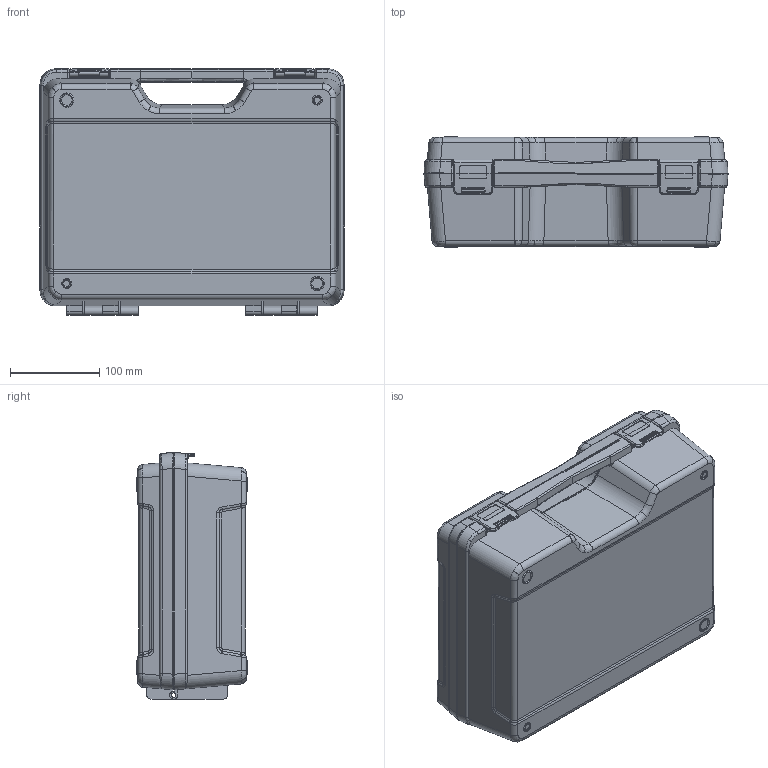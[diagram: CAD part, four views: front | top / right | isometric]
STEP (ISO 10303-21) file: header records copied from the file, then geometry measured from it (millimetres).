
FILE_DESCRIPTION (( 'STEP AP203' ), '1' );
FILE_NAME ('PC-470.STEP', '2020-02-10T14:26:07', ( '' ), ( '' ), 'SwSTEP 2.0', 'SolidWorks 2020', '' );
FILE_SCHEMA (( 'CONFIG_CONTROL_DESIGN' ));
Length unit declared in the file: millimetre
Products named in the file (4): PC-460; PC-470; PC-910; PC-480
Assembly tree (4 placements, depth 2):
  PC-470
    PC-480
    PC-460
    PC-910  x2
Bounding box: 340 x 123.75 x 275.59 mm (x, y, z)
Volume: 923987.9 mm3; surface area: 632936.4 mm2
Topology: 4 solids, 4 shells, 1162 faces, 3060 edges, 1934 vertices
Faces by surface type: plane 424, cylinder 398, bspline 260, cone 44, torus 32, sphere 4
Entity records: 41511 total; most frequent: CARTESIAN_POINT 17091, ORIENTED_EDGE 5726, DIRECTION 4187, EDGE_CURVE 2863, VERTEX_POINT 1811, VECTOR 1473, LINE 1473, AXIS2_PLACEMENT_3D 1357
